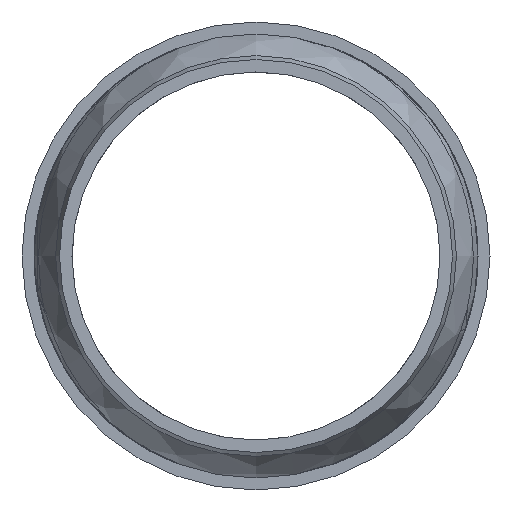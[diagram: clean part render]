
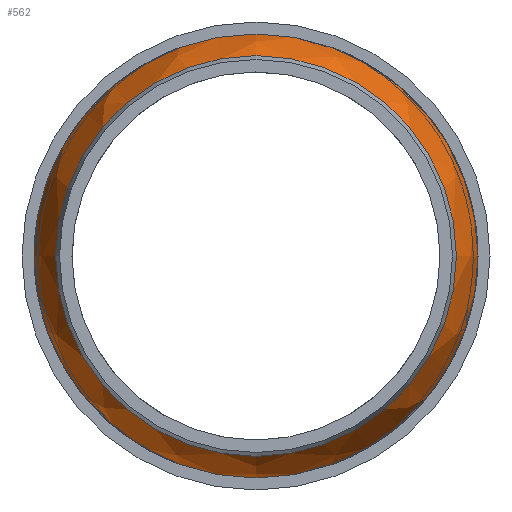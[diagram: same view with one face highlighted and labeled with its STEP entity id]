
A CAD part, left-side view. The second image highlights one B-rep face of the part: STEP entity #562.
In plain terms, the highlighted free-form (B-spline) face has degree [2, 2] with [3, 9] control points.
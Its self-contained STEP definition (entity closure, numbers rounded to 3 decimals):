
#11=(
BOUNDED_CURVE()
B_SPLINE_CURVE(2,(#2081,#2082,#2083),.UNSPECIFIED.,.F.,.F.)
B_SPLINE_CURVE_WITH_KNOTS((3,3),(0.138,0.646),
 .UNSPECIFIED.)
CURVE()
GEOMETRIC_REPRESENTATION_ITEM()
RATIONAL_B_SPLINE_CURVE((1.,0.968,1.))
REPRESENTATION_ITEM('')
);
#12=(
BOUNDED_SURFACE()
B_SPLINE_SURFACE(2,2,((#2054,#2055,#2056,#2057,#2058,#2059,#2060,#2061,
#2062),(#2063,#2064,#2065,#2066,#2067,#2068,#2069,#2070,#2071),(#2072,#2073,
#2074,#2075,#2076,#2077,#2078,#2079,#2080)),.UNSPECIFIED.,.F.,.T.,.F.)
B_SPLINE_SURFACE_WITH_KNOTS((3,3),(3,2,2,2,3),(-0.646,-0.138),
(-3.142,-1.571,0.,1.571,3.142),
 .UNSPECIFIED.)
GEOMETRIC_REPRESENTATION_ITEM()
RATIONAL_B_SPLINE_SURFACE(((1.,0.707,1.,0.707,1.,
0.707,1.,0.707,1.),(0.968,0.684,
0.968,0.684,0.968,0.684,
0.968,0.684,0.968),(1.,0.707,
1.,0.707,1.,0.707,1.,0.707,1.)))
REPRESENTATION_ITEM('')
SURFACE()
);
#147=FACE_OUTER_BOUND('',#207,.T.);
#207=EDGE_LOOP('',(#468,#469,#470,#471,#472,#473,#474));
#233=CIRCLE('',#603,61.05);
#234=CIRCLE('',#604,61.05);
#235=CIRCLE('',#605,61.05);
#241=CIRCLE('',#624,55.1);
#242=CIRCLE('',#625,55.1);
#275=VERTEX_POINT('',#1397);
#284=VERTEX_POINT('',#1789);
#285=VERTEX_POINT('',#1790);
#296=VERTEX_POINT('',#2050);
#297=VERTEX_POINT('',#2051);
#343=EDGE_CURVE('',#284,#285,#233,.T.);
#344=EDGE_CURVE('',#285,#275,#234,.T.);
#345=EDGE_CURVE('',#275,#284,#235,.T.);
#357=EDGE_CURVE('',#296,#297,#241,.T.);
#358=EDGE_CURVE('',#297,#296,#242,.T.);
#359=EDGE_CURVE('',#285,#297,#11,.T.);
#468=ORIENTED_EDGE('',*,*,#343,.F.);
#469=ORIENTED_EDGE('',*,*,#345,.F.);
#470=ORIENTED_EDGE('',*,*,#344,.F.);
#471=ORIENTED_EDGE('',*,*,#359,.T.);
#472=ORIENTED_EDGE('',*,*,#358,.T.);
#473=ORIENTED_EDGE('',*,*,#357,.T.);
#474=ORIENTED_EDGE('',*,*,#359,.F.);
#562=ADVANCED_FACE('',(#147),#12,.F.);
#603=AXIS2_PLACEMENT_3D('',#1791,#697,#698);
#604=AXIS2_PLACEMENT_3D('',#1792,#699,#700);
#605=AXIS2_PLACEMENT_3D('',#1793,#701,#702);
#624=AXIS2_PLACEMENT_3D('',#2052,#739,#740);
#625=AXIS2_PLACEMENT_3D('',#2053,#741,#742);
#697=DIRECTION('center_axis',(1.,0.,0.));
#698=DIRECTION('ref_axis',(0.,0.,
1.));
#699=DIRECTION('center_axis',(1.,0.,0.));
#700=DIRECTION('ref_axis',(0.,0.,
1.));
#701=DIRECTION('center_axis',(1.,0.,0.));
#702=DIRECTION('ref_axis',(0.,0.,
1.));
#739=DIRECTION('center_axis',(1.,0.,0.));
#740=DIRECTION('ref_axis',(0.,0.,
1.));
#741=DIRECTION('center_axis',(1.,0.,0.));
#742=DIRECTION('ref_axis',(0.,0.,
1.));
#1397=CARTESIAN_POINT('',(1011.5,61.05,0.));
#1789=CARTESIAN_POINT('',(1011.5,-61.05,0.));
#1790=CARTESIAN_POINT('',(1011.5,0.,-61.05));
#1791=CARTESIAN_POINT('Origin',(1011.5,0.,
0.));
#1792=CARTESIAN_POINT('Origin',(1011.5,0.,
0.));
#1793=CARTESIAN_POINT('Origin',(1011.5,0.,
0.));
#2050=CARTESIAN_POINT('',(997.1,-55.1,0.));
#2051=CARTESIAN_POINT('',(997.1,0.,-55.1));
#2052=CARTESIAN_POINT('Origin',(997.1,0.,
0.));
#2053=CARTESIAN_POINT('Origin',(997.1,0.,
0.));
#2054=CARTESIAN_POINT('Ctrl Pts',(997.1,0.,
-55.1));
#2055=CARTESIAN_POINT('Ctrl Pts',(997.1,55.1,-55.1));
#2056=CARTESIAN_POINT('Ctrl Pts',(997.1,55.1,0.));
#2057=CARTESIAN_POINT('Ctrl Pts',(997.1,55.1,55.1));
#2058=CARTESIAN_POINT('Ctrl Pts',(997.1,0.,
55.1));
#2059=CARTESIAN_POINT('Ctrl Pts',(997.1,-55.1,55.1));
#2060=CARTESIAN_POINT('Ctrl Pts',(997.1,-55.1,0.));
#2061=CARTESIAN_POINT('Ctrl Pts',(997.1,-55.1,-55.1));
#2062=CARTESIAN_POINT('Ctrl Pts',(997.1,0.,
-55.1));
#2063=CARTESIAN_POINT('Ctrl Pts',(1003.528,0.,
-59.944));
#2064=CARTESIAN_POINT('Ctrl Pts',(1003.528,59.944,-59.944));
#2065=CARTESIAN_POINT('Ctrl Pts',(1003.528,59.944,0.));
#2066=CARTESIAN_POINT('Ctrl Pts',(1003.528,59.944,59.944));
#2067=CARTESIAN_POINT('Ctrl Pts',(1003.528,0.,
59.944));
#2068=CARTESIAN_POINT('Ctrl Pts',(1003.528,-59.944,59.944));
#2069=CARTESIAN_POINT('Ctrl Pts',(1003.528,-59.944,0.));
#2070=CARTESIAN_POINT('Ctrl Pts',(1003.528,-59.944,-59.944));
#2071=CARTESIAN_POINT('Ctrl Pts',(1003.528,0.,
-59.944));
#2072=CARTESIAN_POINT('Ctrl Pts',(1011.5,0.,
-61.05));
#2073=CARTESIAN_POINT('Ctrl Pts',(1011.5,61.05,-61.05));
#2074=CARTESIAN_POINT('Ctrl Pts',(1011.5,61.05,0.));
#2075=CARTESIAN_POINT('Ctrl Pts',(1011.5,61.05,61.05));
#2076=CARTESIAN_POINT('Ctrl Pts',(1011.5,0.,
61.05));
#2077=CARTESIAN_POINT('Ctrl Pts',(1011.5,-61.05,61.05));
#2078=CARTESIAN_POINT('Ctrl Pts',(1011.5,-61.05,0.));
#2079=CARTESIAN_POINT('Ctrl Pts',(1011.5,-61.05,-61.05));
#2080=CARTESIAN_POINT('Ctrl Pts',(1011.5,0.,
-61.05));
#2081=CARTESIAN_POINT('Ctrl Pts',(1011.5,0.,
-61.05));
#2082=CARTESIAN_POINT('Ctrl Pts',(1003.528,0.,
-59.944));
#2083=CARTESIAN_POINT('Ctrl Pts',(997.1,0.,
-55.1));
